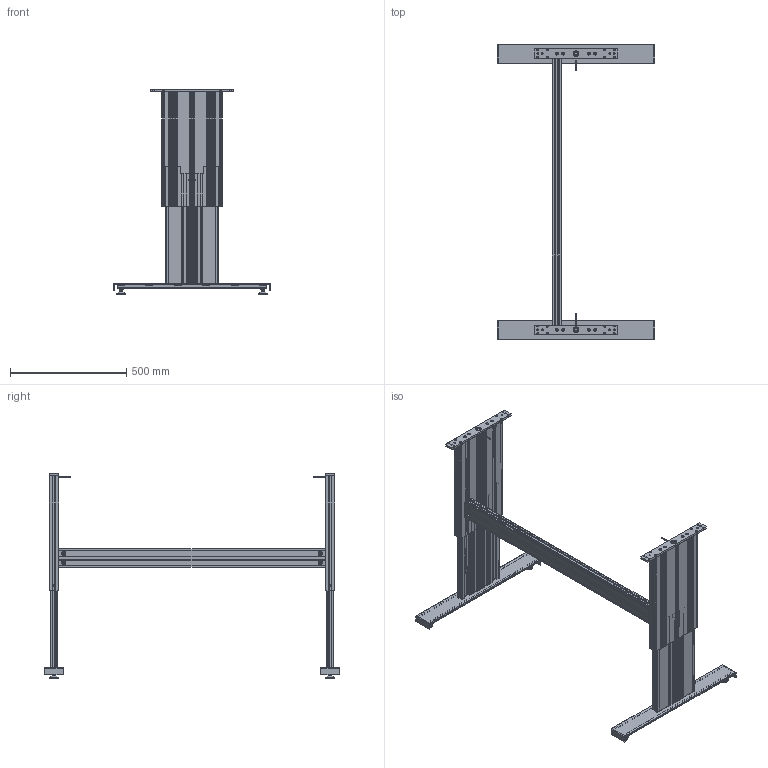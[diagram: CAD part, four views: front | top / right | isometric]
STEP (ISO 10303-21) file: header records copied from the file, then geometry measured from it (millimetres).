
FILE_DESCRIPTION(/* description */ ('Unknown'),/* implementation_level */ '2;1');
FILE_NAME(/* name */ '108.00462 Untergestell TT-2 1830 1190_ausgefahren',/* time_stamp */ '2017-12-04T15:26:23+01:00',/* author */ ('Unknown'),/* organization */ ('Unknown'),/* preprocessor_version */ 'ST-DEVELOPER v16.7',/* originating_system */ 'DEX',/* authorisation */ $);
FILE_SCHEMA (('AUTOMOTIVE_DESIGN {1 0 10303 214 3 1 1}'));
Products named in the file (29): 108.00462; 106.00383_oa_0; 119.00203; 119.00154; 142.00188; 142.00166; 142.00031; 126.00102; 109.00024_oa_1; 115.00008_oa_2; 125.00063; 125.00021; 113.00002_70mm; 106.00383_oa_3; 109.00024_oa_4; 115.00008_oa_5; 115.00093; 119.00173; 142.00207; 127.00515; 127.00520; 127.00556; 127.00557; 127.00520_461_469_Kehlnaht 1_oa_6; 113.00095; 113.00099; 113.00096; 113.00097; 113.00098
Assembly tree (50 placements, depth 5):
  108.00462
    106.00383_oa_0
      119.00203
      119.00154
      142.00188  x2
      142.00166  x4
      142.00031
      126.00102
      109.00024_oa_1
        115.00008_oa_2
        125.00063
        125.00021
      113.00002_70mm
    106.00383_oa_3
      119.00203
      119.00154
      142.00188  x2
      142.00166  x4
      142.00031
      126.00102
      109.00024_oa_4
        115.00008_oa_5
        125.00063
        125.00021
      113.00002_70mm
    115.00093
      119.00173
      142.00207  x4
    127.00515  x2
      127.00520
        127.00556
        127.00557
        127.00520_461_469_Kehlnaht 1_oa_6
      113.00095
        113.00099
        113.00096
          113.00097
          113.00098
Bounding box: 680 x 1270 x 883.5 mm (x, y, z)
Volume: 6597897.7 mm3; surface area: 4676065.9 mm2
Topology: 71 solids, 79 shells, 4882 faces, 13892 edges, 9232 vertices
Faces by surface type: plane 3036, cylinder 1548, cone 194, torus 72, bspline 24, sphere 8
Full cylindrical faces by diameter (mm): 1.8 x4, 2.2 x2, 2.99 x2, 3.242 x4, 3.5 x2, 4 x6, 4.1 x2, 4.2 x2, 5 x12, 5.5 x8, 6.6 x8, 6.647 x16, 6.917 x4, 7.5 x4, 8 x16, 8.376 x6, 8.5 x20, 8.7 x8, 10 x8, 11.3 x8, 12 x4, 12.5 x10, 13 x4, 13.5 x6, 13.7 x2, 14.4 x2, 17.9 x4, 18 x16, 25 x10, 27.2 x4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
Entity records: 85269 total; most frequent: CARTESIAN_POINT 14586, ORIENTED_EDGE 13064, DIRECTION 12697, EDGE_CURVE 6532, LINE 4481, VECTOR 4481, VERTEX_POINT 4422, AXIS2_PLACEMENT_3D 4108
